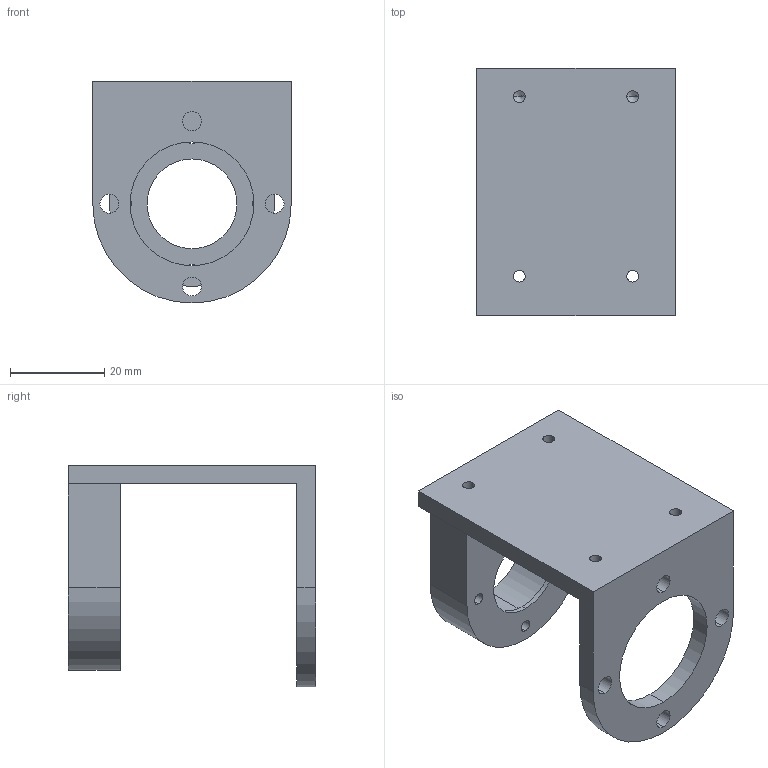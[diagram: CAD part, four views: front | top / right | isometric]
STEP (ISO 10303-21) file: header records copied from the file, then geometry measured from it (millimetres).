
FILE_DESCRIPTION (( 'STEP AP214' ), '1' );
FILE_NAME ('粣創珨极盓釱.STEP', '2018-03-13T07:44:04', ( 'll' ), ( 'Microsoft' ), 'SwSTEP 2.0', 'SolidWorks 2016', '' );
FILE_SCHEMA (( 'AUTOMOTIVE_DESIGN' ));
Length unit declared in the file: millimetre
Products named in the file (1): 粣創珨极盓釱
Bounding box: 42 x 52.3 x 47 mm (x, y, z)
Volume: 22524.9 mm3; surface area: 11918 mm2
Topology: 1 solids, 1 shells, 48 faces, 131 edges, 84 vertices
Faces by surface type: cylinder 33, plane 11, cone 4
Entity records: 1779 total; most frequent: DIRECTION 291, CARTESIAN_POINT 260, ORIENTED_EDGE 254, EDGE_CURVE 127, AXIS2_PLACEMENT_3D 115, VERTEX_POINT 84, EDGE_LOOP 75, CIRCLE 66
